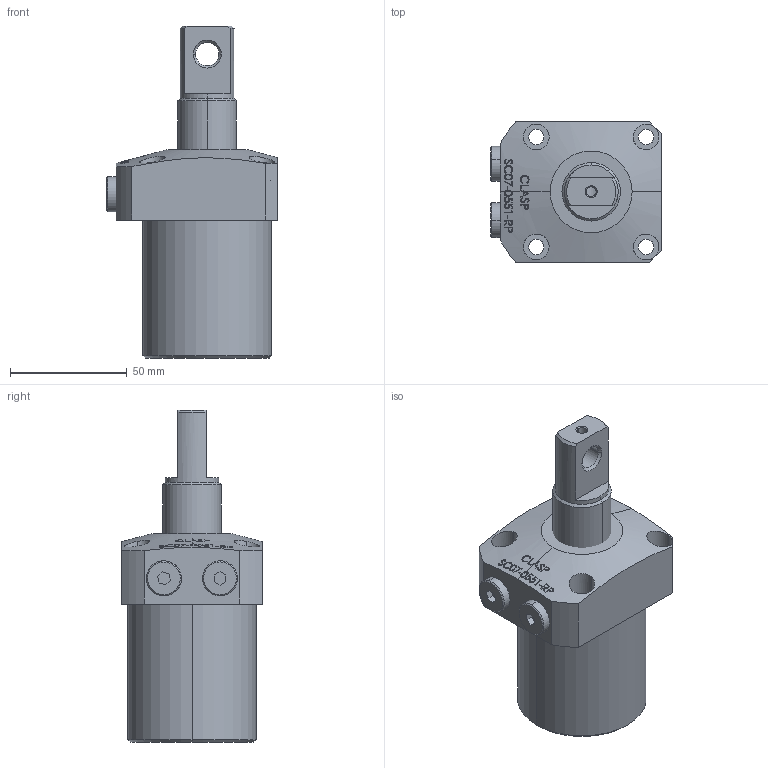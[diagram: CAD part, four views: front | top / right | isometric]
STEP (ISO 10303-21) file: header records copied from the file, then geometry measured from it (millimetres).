
FILE_DESCRIPTION (( 'STEP AP203' ), '1' );
FILE_NAME ('SC07-0551-RP.STEP', '2022-07-08T16:54:38', ( '' ), ( '' ), 'SwSTEP 2.0', 'SolidWorks 2017', '' );
FILE_SCHEMA (( 'CONFIG_CONTROL_DESIGN' ));
Length unit declared in the file: millimetre
Products named in the file (4): SC-07-0551-RP BODY; SC-07-0551-RP-Piston; SC-07-0551-RP-05 plug; SC07-0551-RP
Assembly tree (4 placements, depth 2):
  SC07-0551-RP
    SC-07-0551-RP BODY
    SC-07-0551-RP-Piston
    SC-07-0551-RP-05 plug  x2
Bounding box: 73 x 60 x 142 mm (x, y, z)
Volume: 275938.6 mm3; surface area: 37052.2 mm2
Topology: 4 solids, 4 shells, 327 faces, 824 edges, 542 vertices
Faces by surface type: plane 147, bspline 99, cylinder 50, cone 31
Entity records: 15490 total; most frequent: CARTESIAN_POINT 8290, ORIENTED_EDGE 1584, DIRECTION 1030, EDGE_CURVE 792, VERTEX_POINT 522, LINE 374, VECTOR 374, EDGE_LOOP 360
